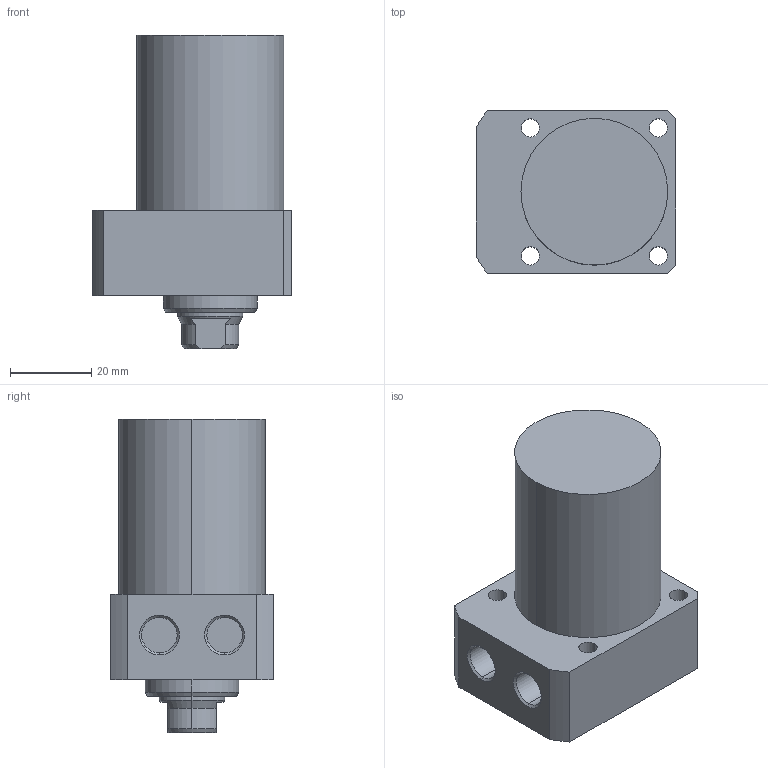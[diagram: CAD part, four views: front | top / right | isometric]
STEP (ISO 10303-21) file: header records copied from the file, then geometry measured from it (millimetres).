
FILE_DESCRIPTION (( 'STEP AP203' ), '1' );
FILE_NAME ('CLLR-036CA-035.STEP', '2019-12-20T00:31:02', ( '' ), ( '' ), 'SwSTEP 2.0', 'SolidWorks 2015', '' );
FILE_SCHEMA (( 'CONFIG_CONTROL_DESIGN' ));
Length unit declared in the file: millimetre
Products named in the file (1): CLLR-036CA-035
Bounding box: 49 x 40 x 77 mm (x, y, z)
Volume: 84472.3 mm3; surface area: 14943 mm2
Topology: 1 solids, 1 shells, 63 faces, 149 edges, 94 vertices
Faces by surface type: cylinder 29, plane 19, cone 15
Entity records: 1927 total; most frequent: DIRECTION 340, CARTESIAN_POINT 337, ORIENTED_EDGE 294, EDGE_CURVE 147, AXIS2_PLACEMENT_3D 137, VERTEX_POINT 94, EDGE_LOOP 79, CIRCLE 73
